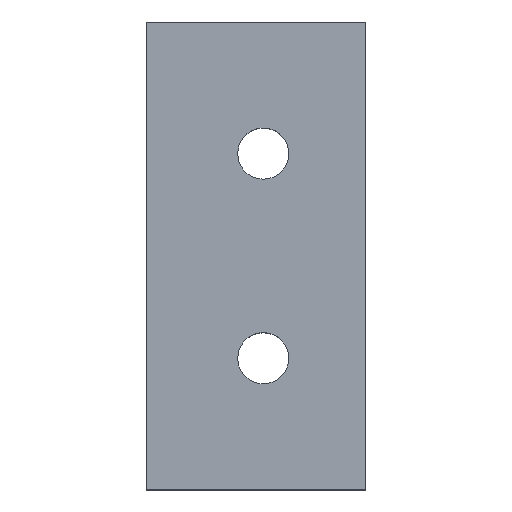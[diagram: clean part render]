
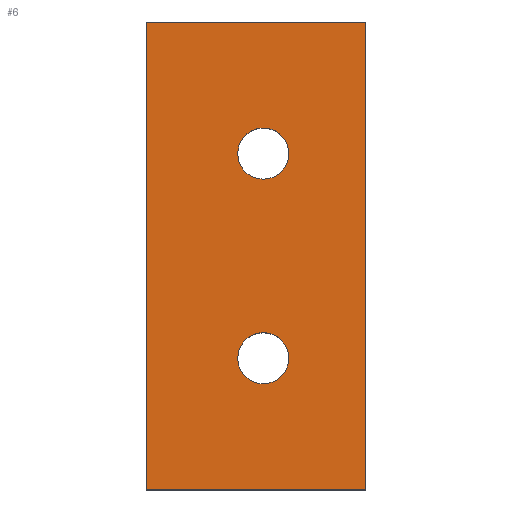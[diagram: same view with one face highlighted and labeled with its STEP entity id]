
A CAD part, top view. The second image highlights one B-rep face of the part: STEP entity #6.
In plain terms, the highlighted planar face has unit normal (0, 0, 1).
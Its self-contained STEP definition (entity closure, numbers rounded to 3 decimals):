
#1 = EDGE_LOOP ( 'NONE', ( #48, #243 ) ) ;
#5 = CIRCLE ( 'NONE', #235, 8.75 ) ;
#6 = ADVANCED_FACE ( 'NONE', ( #198, #41, #179 ), #15, .T. ) ;
#8 = CARTESIAN_POINT ( 'NONE',  ( 48.75, 115., 25. ) ) ;
#10 = EDGE_CURVE ( 'NONE', #141, #236, #102, .T. ) ;
#11 = LINE ( 'NONE', #72, #78 ) ;
#12 = DIRECTION ( 'NONE',  ( 1., 0., 0. ) ) ;
#14 = DIRECTION ( 'NONE',  ( 1., 0., 0. ) ) ;
#15 = PLANE ( 'NONE',  #88 ) ;
#24 = CARTESIAN_POINT ( 'NONE',  ( 0., 0., 25. ) ) ;
#28 = VERTEX_POINT ( 'NONE', #89 ) ;
#35 = CARTESIAN_POINT ( 'NONE',  ( 31.25, 45., 25. ) ) ;
#41 = FACE_BOUND ( 'NONE', #1, .T. ) ;
#46 = EDGE_CURVE ( 'NONE', #188, #91, #167, .T. ) ;
#48 = ORIENTED_EDGE ( 'NONE', *, *, #10, .F. ) ;
#56 = VECTOR ( 'NONE', #12, 1000. ) ;
#57 = DIRECTION ( 'NONE',  ( 0., 0., 1. ) ) ;
#59 = ORIENTED_EDGE ( 'NONE', *, *, #272, .F. ) ;
#60 = EDGE_LOOP ( 'NONE', ( #109, #328, #140, #123 ) ) ;
#68 = CARTESIAN_POINT ( 'NONE',  ( 75., 160., 25. ) ) ;
#69 = EDGE_CURVE ( 'NONE', #236, #141, #5, .T. ) ;
#72 = CARTESIAN_POINT ( 'NONE',  ( 75., 80., 25. ) ) ;
#75 = AXIS2_PLACEMENT_3D ( 'NONE', #307, #150, #337 ) ;
#78 = VECTOR ( 'NONE', #125, 1000. ) ;
#85 = CIRCLE ( 'NONE', #145, 8.75 ) ;
#88 = AXIS2_PLACEMENT_3D ( 'NONE', #24, #57, #322 ) ;
#89 = CARTESIAN_POINT ( 'NONE',  ( 0., 160., 25. ) ) ;
#90 = DIRECTION ( 'NONE',  ( -1., 0., 0. ) ) ;
#91 = VERTEX_POINT ( 'NONE', #182 ) ;
#99 = EDGE_CURVE ( 'NONE', #103, #135, #209, .T. ) ;
#102 = CIRCLE ( 'NONE', #75, 8.75 ) ;
#103 = VERTEX_POINT ( 'NONE', #316 ) ;
#109 = ORIENTED_EDGE ( 'NONE', *, *, #46, .T. ) ;
#116 = DIRECTION ( 'NONE',  ( 1., 0., 0. ) ) ;
#121 = CARTESIAN_POINT ( 'NONE',  ( 0., 80., 25. ) ) ;
#123 = ORIENTED_EDGE ( 'NONE', *, *, #324, .T. ) ;
#125 = DIRECTION ( 'NONE',  ( 0., 1., 0. ) ) ;
#132 = EDGE_LOOP ( 'NONE', ( #136, #59 ) ) ;
#135 = VERTEX_POINT ( 'NONE', #8 ) ;
#136 = ORIENTED_EDGE ( 'NONE', *, *, #99, .F. ) ;
#140 = ORIENTED_EDGE ( 'NONE', *, *, #249, .T. ) ;
#141 = VERTEX_POINT ( 'NONE', #35 ) ;
#145 = AXIS2_PLACEMENT_3D ( 'NONE', #343, #175, #14 ) ;
#150 = DIRECTION ( 'NONE',  ( 0., 0., 1. ) ) ;
#151 = CARTESIAN_POINT ( 'NONE',  ( 40., 45., 25. ) ) ;
#166 = VECTOR ( 'NONE', #338, 1000. ) ;
#167 = LINE ( 'NONE', #174, #56 ) ;
#174 = CARTESIAN_POINT ( 'NONE',  ( 37.5, 0., 25. ) ) ;
#175 = DIRECTION ( 'NONE',  ( 0., 0., 1. ) ) ;
#176 = LINE ( 'NONE', #121, #166 ) ;
#179 = FACE_BOUND ( 'NONE', #132, .T. ) ;
#182 = CARTESIAN_POINT ( 'NONE',  ( 75., 0., 25. ) ) ;
#188 = VERTEX_POINT ( 'NONE', #202 ) ;
#189 = DIRECTION ( 'NONE',  ( 0., 0., 1. ) ) ;
#198 = FACE_OUTER_BOUND ( 'NONE', #60, .T. ) ;
#202 = CARTESIAN_POINT ( 'NONE',  ( 0., 0., 25. ) ) ;
#209 = CIRCLE ( 'NONE', #294, 8.75 ) ;
#223 = LINE ( 'NONE', #255, #234 ) ;
#231 = DIRECTION ( 'NONE',  ( 1., 0., 0. ) ) ;
#234 = VECTOR ( 'NONE', #90, 1000. ) ;
#235 = AXIS2_PLACEMENT_3D ( 'NONE', #151, #189, #231 ) ;
#236 = VERTEX_POINT ( 'NONE', #275 ) ;
#243 = ORIENTED_EDGE ( 'NONE', *, *, #69, .F. ) ;
#249 = EDGE_CURVE ( 'NONE', #327, #28, #223, .T. ) ;
#255 = CARTESIAN_POINT ( 'NONE',  ( 37.5, 160., 25. ) ) ;
#272 = EDGE_CURVE ( 'NONE', #135, #103, #85, .T. ) ;
#275 = CARTESIAN_POINT ( 'NONE',  ( 48.75, 45., 25. ) ) ;
#279 = DIRECTION ( 'NONE',  ( 0., 0., 1. ) ) ;
#293 = EDGE_CURVE ( 'NONE', #91, #327, #11, .T. ) ;
#294 = AXIS2_PLACEMENT_3D ( 'NONE', #295, #279, #116 ) ;
#295 = CARTESIAN_POINT ( 'NONE',  ( 40., 115., 25. ) ) ;
#307 = CARTESIAN_POINT ( 'NONE',  ( 40., 45., 25. ) ) ;
#316 = CARTESIAN_POINT ( 'NONE',  ( 31.25, 115., 25. ) ) ;
#322 = DIRECTION ( 'NONE',  ( 1., 0., 0. ) ) ;
#324 = EDGE_CURVE ( 'NONE', #28, #188, #176, .T. ) ;
#327 = VERTEX_POINT ( 'NONE', #68 ) ;
#328 = ORIENTED_EDGE ( 'NONE', *, *, #293, .T. ) ;
#337 = DIRECTION ( 'NONE',  ( 1., 0., 0. ) ) ;
#338 = DIRECTION ( 'NONE',  ( 0., -1., 0. ) ) ;
#343 = CARTESIAN_POINT ( 'NONE',  ( 40., 115., 25. ) ) ;
